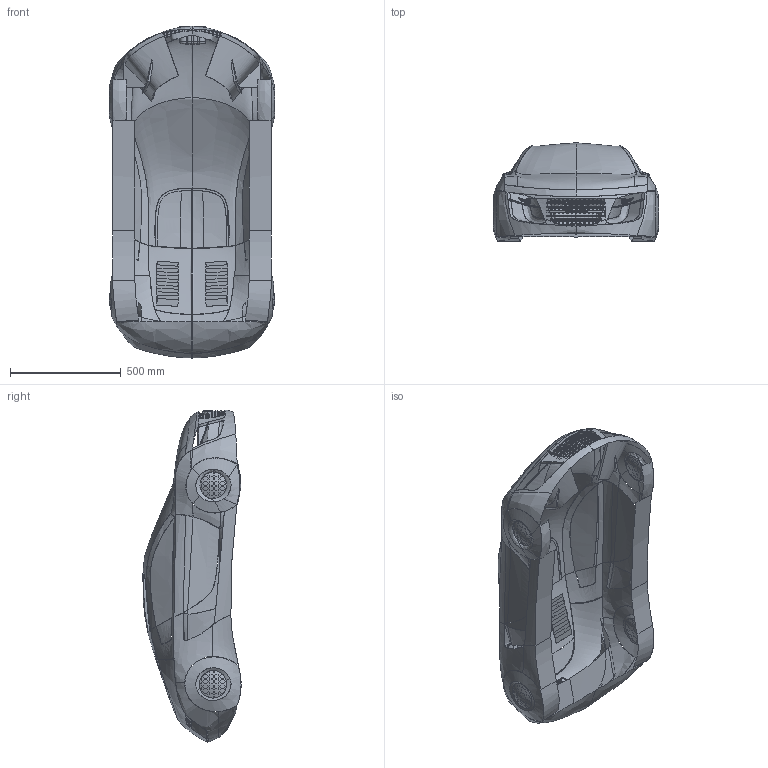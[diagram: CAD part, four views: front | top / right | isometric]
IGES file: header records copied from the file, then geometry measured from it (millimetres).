
Start section: SolidWorks IGES file using analytic representation for surfaces
Global section: file name: C:\Users\Venkat\Desktop\AudiRSQAssy.IGS; native system: SolidWorks 2011; preprocessor: SolidWorks 2011; author: Venkat; date: 120329.224657; units: millimetre
Bounding box: 748.47 x 442.64 x 1497.54 mm (x, y, z)
Surface area: 3244834.7 mm2 (no closed solid volume)
Topology: 0 solids, 0 shells, 1443 faces, 24921 edges, 24909 vertices
Faces by surface type: bspline 1287, revolution 156
